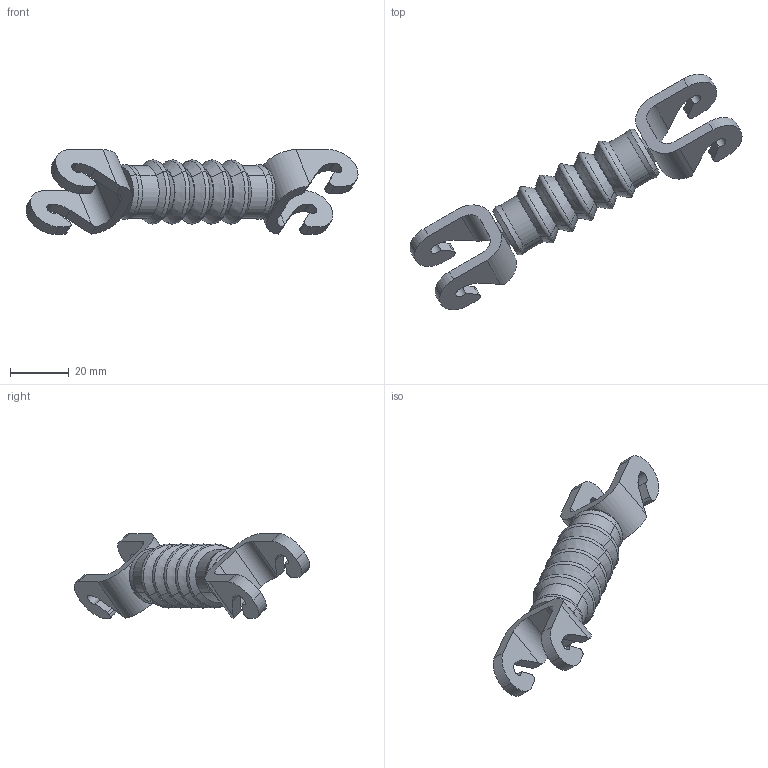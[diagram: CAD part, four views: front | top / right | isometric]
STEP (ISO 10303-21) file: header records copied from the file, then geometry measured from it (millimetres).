
FILE_DESCRIPTION (( 'STEP AP214' ), '1' );
FILE_NAME ('IRB360_X-1130-STD-4D_rev03_LA3_CU_CAD.STEP', '2023-12-04T07:55:28', ( '' ), ( '' ), 'SwSTEP 2.0', 'SolidWorks 2022', '' );
FILE_SCHEMA (( 'AUTOMOTIVE_DESIGN' ));
Length unit declared in the file: millimetre
Products named in the file (1): IRB360_X-1130-STD-4D_rev03_LA3_CU_CAD
Bounding box: 113.16 x 80.31 x 28.82 mm (x, y, z)
Volume: 24157.4 mm3; surface area: 10290.8 mm2
Topology: 3 solids, 3 shells, 134 faces, 322 edges, 196 vertices
Faces by surface type: plane 42, cylinder 38, cone 28, torus 26
Entity records: 3944 total; most frequent: DIRECTION 738, CARTESIAN_POINT 677, ORIENTED_EDGE 644, EDGE_CURVE 322, AXIS2_PLACEMENT_3D 289, VERTEX_POINT 196, LINE 160, VECTOR 160
